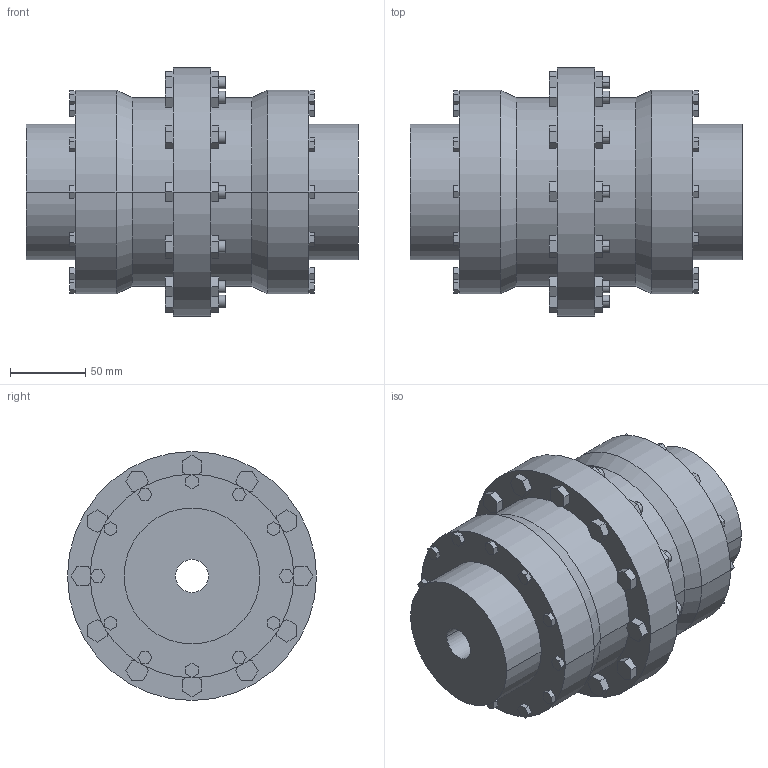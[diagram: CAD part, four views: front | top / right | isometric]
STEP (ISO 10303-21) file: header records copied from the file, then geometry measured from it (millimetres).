
FILE_DESCRIPTION((''),'2;1');
FILE_NAME('A19715000-0_ASM','2019-05-23T',('AB_Roschiwal'),('RENK AG'),'PRO/ENGINEER BY PARAMETRIC TECHNOLOGY CORPORATION, 2015440','PRO/ENGINEER BY PARAMETRIC TECHNOLOGY CORPORATION, 2015440','');
FILE_SCHEMA(('CONFIG_CONTROL_DESIGN'));
Length unit declared in the file: millimetre
Products named in the file (3): SBK60_GEHAEUSE; SBK60_NABE; A19715000-0_ASM
Assembly tree (3 placements, depth 2):
  A19715000-0_ASM
    SBK60_GEHAEUSE
    SBK60_NABE  x2
Bounding box: 220 x 165 x 165 mm (x, y, z)
Volume: 1898022.6 mm3; surface area: 267739.5 mm2
Topology: 3 solids, 3 shells, 422 faces, 1036 edges, 688 vertices
Faces by surface type: plane 362, cylinder 56, cone 4
Entity records: 12052 total; most frequent: CARTESIAN_POINT 2100, ORIENTED_EDGE 2024, DIRECTION 1940, EDGE_CURVE 1012, VECTOR 916, LINE 916, VERTEX_POINT 672, AXIS2_PLACEMENT_3D 512
